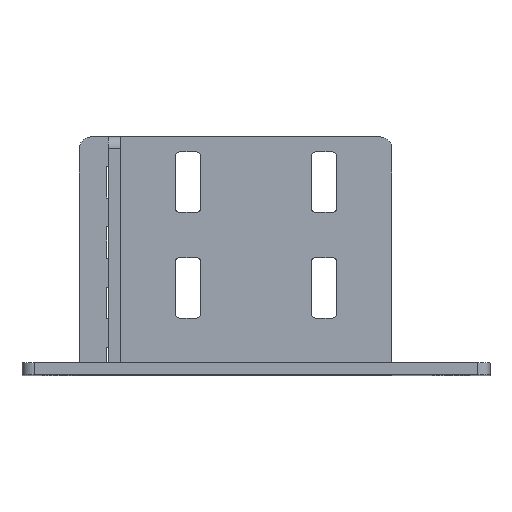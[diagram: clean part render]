
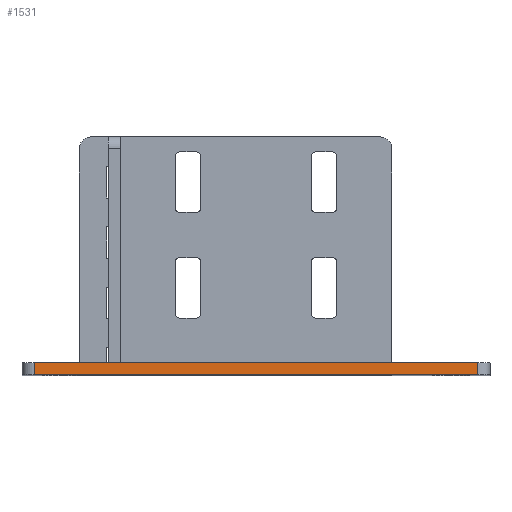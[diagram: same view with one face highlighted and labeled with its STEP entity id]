
A CAD part, top view. The second image highlights one B-rep face of the part: STEP entity #1531.
In plain terms, the highlighted planar face has unit normal (0, 0, 1).
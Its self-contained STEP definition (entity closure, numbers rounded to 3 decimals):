
#39 = DIRECTION ( 'NONE',  ( 1., 0., 0. ) ) ;
#157 = VECTOR ( 'NONE', #2518, 1000. ) ;
#514 = DIRECTION ( 'NONE',  ( 1., 0., 0. ) ) ;
#827 = ORIENTED_EDGE ( 'NONE', *, *, #3480, .F. ) ;
#959 = CARTESIAN_POINT ( 'NONE',  ( -28.122, 4., 68.609 ) ) ;
#982 = CARTESIAN_POINT ( 'NONE',  ( -28.122, 4., 68.609 ) ) ;
#1072 = CARTESIAN_POINT ( 'NONE',  ( -28.122, 4., 68.609 ) ) ;
#1135 = EDGE_LOOP ( 'NONE', ( #5060, #3413, #827, #2199 ) ) ;
#1278 = CARTESIAN_POINT ( 'NONE',  ( 118.878, 4., 68.609 ) ) ;
#1294 = LINE ( 'NONE', #1278, #157 ) ;
#1531 = ADVANCED_FACE ( 'NONE', ( #1788 ), #1827, .F. ) ;
#1594 = CARTESIAN_POINT ( 'NONE',  ( 118.878, 0., 68.609 ) ) ;
#1718 = CARTESIAN_POINT ( 'NONE',  ( -28.122, 4., 68.609 ) ) ;
#1766 = CARTESIAN_POINT ( 'NONE',  ( -28.122, 0., 68.609 ) ) ;
#1788 = FACE_OUTER_BOUND ( 'NONE', #1135, .T. ) ;
#1827 = PLANE ( 'NONE',  #3620 ) ;
#2199 = ORIENTED_EDGE ( 'NONE', *, *, #4666, .T. ) ;
#2214 = DIRECTION ( 'NONE',  ( 0., -1., 0. ) ) ;
#2238 = DIRECTION ( 'NONE',  ( -1., 0., 0. ) ) ;
#2518 = DIRECTION ( 'NONE',  ( 0., -1., 0. ) ) ;
#2856 = EDGE_CURVE ( 'NONE', #3220, #4069, #1294, .T. ) ;
#2954 = VERTEX_POINT ( 'NONE', #3428 ) ;
#3220 = VERTEX_POINT ( 'NONE', #3807 ) ;
#3413 = ORIENTED_EDGE ( 'NONE', *, *, #2856, .F. ) ;
#3428 = CARTESIAN_POINT ( 'NONE',  ( -28.122, 0., 68.609 ) ) ;
#3480 = EDGE_CURVE ( 'NONE', #3859, #3220, #5078, .T. ) ;
#3620 = AXIS2_PLACEMENT_3D ( 'NONE', #982, #4729, #2238 ) ;
#3678 = VECTOR ( 'NONE', #39, 1000. ) ;
#3807 = CARTESIAN_POINT ( 'NONE',  ( 118.878, 4., 68.609 ) ) ;
#3808 = VECTOR ( 'NONE', #2214, 1000. ) ;
#3859 = VERTEX_POINT ( 'NONE', #1072 ) ;
#4065 = VECTOR ( 'NONE', #514, 1000. ) ;
#4069 = VERTEX_POINT ( 'NONE', #1594 ) ;
#4203 = LINE ( 'NONE', #1766, #4065 ) ;
#4603 = EDGE_CURVE ( 'NONE', #2954, #4069, #4203, .T. ) ;
#4666 = EDGE_CURVE ( 'NONE', #3859, #2954, #5071, .T. ) ;
#4729 = DIRECTION ( 'NONE',  ( 0., 0., -1. ) ) ;
#5060 = ORIENTED_EDGE ( 'NONE', *, *, #4603, .T. ) ;
#5071 = LINE ( 'NONE', #959, #3808 ) ;
#5078 = LINE ( 'NONE', #1718, #3678 ) ;
